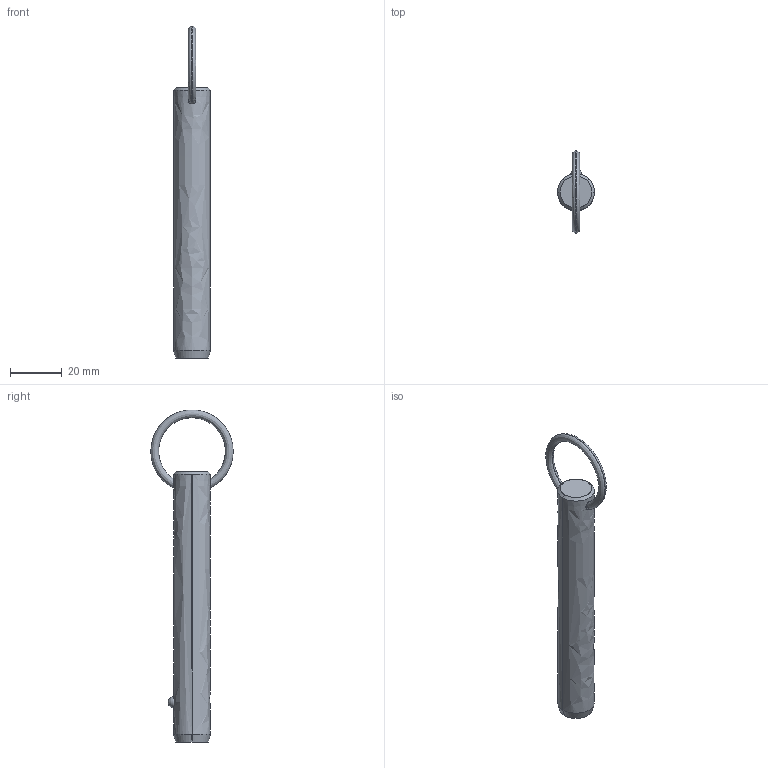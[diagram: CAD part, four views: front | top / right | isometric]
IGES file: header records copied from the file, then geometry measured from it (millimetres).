
Start section: SolidWorks IGES file using analytic representation for surfaces
Global section: file name: C:\Users\liam_\OneDrive\Documents\WORK\Work for WixRoyd\Job Files\J-00019 - Matt Davis CAD Checking\04. CAD Drawings\automotion20190605\P1250.2_v2\P1250.2_v2_20190729_IGES\P1250.056-310.igs; native system: SolidWorks 2017; preprocessor: SolidWorks 2017; author: liam_; date: 190729.231958; units: millimetre
Bounding box: 14.2 x 31.7 x 127.79 mm (x, y, z)
Surface area: 5605.4 mm2 (no closed solid volume)
Topology: 0 solids, 0 shells, 12 faces, 285 edges, 283 vertices
Faces by surface type: revolution 8, bspline 4
